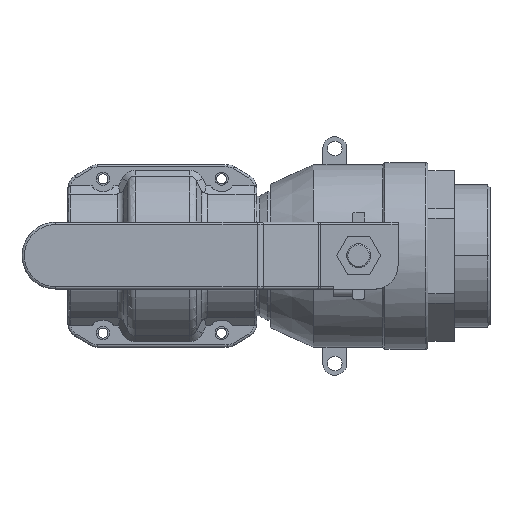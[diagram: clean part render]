
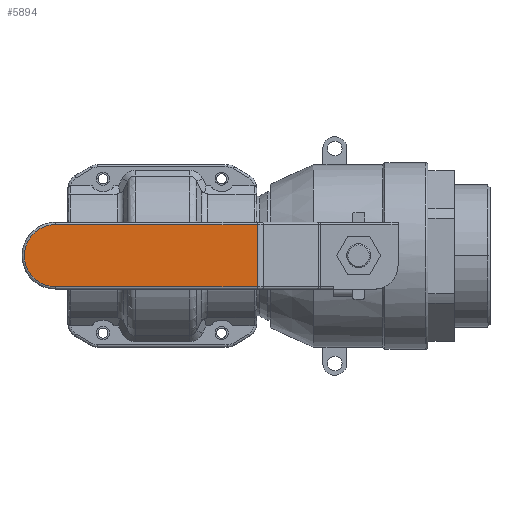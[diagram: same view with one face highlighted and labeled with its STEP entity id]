
A CAD part, top view. The second image highlights one B-rep face of the part: STEP entity #5894.
In plain terms, the highlighted planar face has unit normal (0, 0, 1).
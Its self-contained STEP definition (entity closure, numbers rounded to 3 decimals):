
#2833=DIRECTION('',(1.,0.,0.));
#2834=VECTOR('',#2833,84.972);
#2835=CARTESIAN_POINT('',(-47.281,13.078,80.478));
#2836=LINE('',#2835,#2834);
#2840=DIRECTION('',(0.,1.,0.));
#2841=VECTOR('',#2840,26.155);
#2842=CARTESIAN_POINT('',(37.692,-13.078,80.478));
#2843=LINE('',#2842,#2841);
#2847=DIRECTION('',(-1.,0.,0.));
#2848=VECTOR('',#2847,84.972);
#2849=CARTESIAN_POINT('',(37.692,-13.078,80.478));
#2850=LINE('',#2849,#2848);
#2854=CARTESIAN_POINT('',(-47.281,0.,80.478));
#2855=DIRECTION('',(0.,0.,-1.));
#2856=DIRECTION('',(0.,-1.,0.));
#2857=AXIS2_PLACEMENT_3D('',#2854,#2855,#2856);
#3373=CARTESIAN_POINT('',(37.692,13.078,80.478));
#3374=VERTEX_POINT('',#3373);
#3377=CARTESIAN_POINT('',(-47.281,13.078,80.478));
#3378=VERTEX_POINT('',#3377);
#3381=CARTESIAN_POINT('',(-47.281,-13.078,80.478));
#3382=VERTEX_POINT('',#3381);
#3385=CARTESIAN_POINT('',(37.692,-13.078,80.478));
#3386=VERTEX_POINT('',#3385);
#5883=CARTESIAN_POINT('',(39.233,14.084,80.478));
#5884=DIRECTION('',(0.,0.,1.));
#5885=DIRECTION('',(-1.,0.,0.));
#5886=AXIS2_PLACEMENT_3D('',#5883,#5884,#5885);
#5887=PLANE('',#5886);
#5888=ORIENTED_EDGE('',*,*,#5824,.T.);
#5889=ORIENTED_EDGE('',*,*,#5878,.F.);
#5890=ORIENTED_EDGE('',*,*,#5579,.T.);
#5891=ORIENTED_EDGE('',*,*,#5594,.T.);
#5892=EDGE_LOOP('',(#5888,#5889,#5890,#5891));
#5893=FACE_OUTER_BOUND('',#5892,.F.);
#2858=CIRCLE('',#2857,13.078);
#5579=EDGE_CURVE('',#3386,#3382,#2850,.T.);
#5594=EDGE_CURVE('',#3382,#3378,#2858,.T.);
#5824=EDGE_CURVE('',#3378,#3374,#2836,.T.);
#5878=EDGE_CURVE('',#3386,#3374,#2843,.T.);
#5894=ADVANCED_FACE('',(#5893),#5887,.T.);
